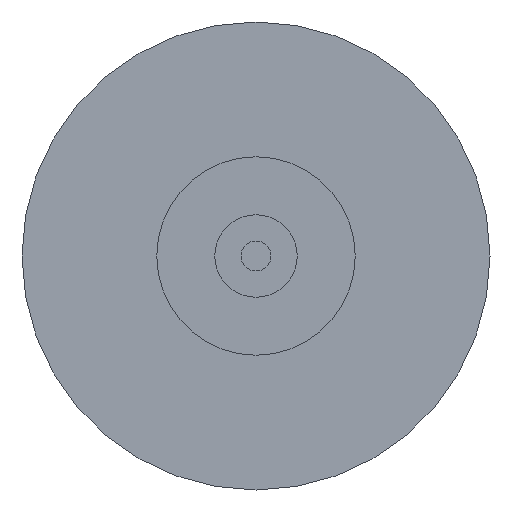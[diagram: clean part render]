
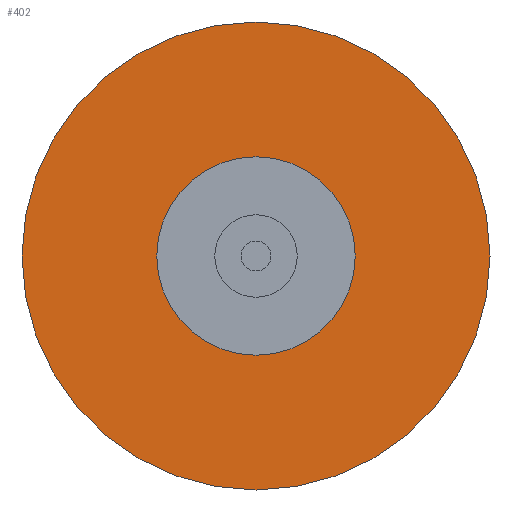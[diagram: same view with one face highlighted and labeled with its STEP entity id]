
A CAD part, left-side view. The second image highlights one B-rep face of the part: STEP entity #402.
In plain terms, the highlighted planar face has unit normal (-1, 0, 0).
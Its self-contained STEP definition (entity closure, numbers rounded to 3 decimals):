
#85=CARTESIAN_POINT('',(-18.5,0.,0.));
#86=DIRECTION('',(-1.,0.,0.));
#87=DIRECTION('',(0.,0.,-1.));
#88=AXIS2_PLACEMENT_3D('',#85,#86,#87);
#90=CARTESIAN_POINT('',(-18.5,0.,0.));
#91=DIRECTION('',(1.,0.,0.));
#92=DIRECTION('',(0.,0.,-1.));
#93=AXIS2_PLACEMENT_3D('',#90,#91,#92);
#95=CARTESIAN_POINT('',(-18.5,0.,0.));
#96=DIRECTION('',(1.,0.,0.));
#97=DIRECTION('',(0.,0.,-1.));
#98=AXIS2_PLACEMENT_3D('',#95,#96,#97);
#108=CARTESIAN_POINT('',(-18.5,0.,0.));
#109=DIRECTION('',(-1.,0.,0.));
#110=DIRECTION('',(0.,0.,-1.));
#111=AXIS2_PLACEMENT_3D('',#108,#109,#110);
#206=CARTESIAN_POINT('',(-18.5,0.,-62.5));
#208=VERTEX_POINT('',#206);
#209=CARTESIAN_POINT('',(-18.5,0.,-26.5));
#211=VERTEX_POINT('',#209);
#226=CARTESIAN_POINT('',(-18.5,0.,62.5));
#228=VERTEX_POINT('',#226);
#229=CARTESIAN_POINT('',(-18.5,0.,26.5));
#231=VERTEX_POINT('',#229);
#387=CARTESIAN_POINT('',(-18.5,0.,0.));
#388=DIRECTION('',(1.,0.,0.));
#389=DIRECTION('',(0.,0.,1.));
#390=AXIS2_PLACEMENT_3D('',#387,#388,#389);
#391=PLANE('',#390);
#392=ORIENTED_EDGE('',*,*,#380,.F.);
#393=ORIENTED_EDGE('',*,*,#369,.T.);
#394=EDGE_LOOP('',(#392,#393));
#395=FACE_OUTER_BOUND('',#394,.F.);
#397=ORIENTED_EDGE('',*,*,#396,.F.);
#399=ORIENTED_EDGE('',*,*,#398,.T.);
#400=EDGE_LOOP('',(#397,#399));
#401=FACE_BOUND('',#400,.F.);
#402=ADVANCED_FACE('',(#395,#401),#391,.F.);
#89=CIRCLE('',#88,62.5);
#94=CIRCLE('',#93,62.5);
#99=CIRCLE('',#98,26.5);
#112=CIRCLE('',#111,26.5);
#369=EDGE_CURVE('',#208,#228,#94,.T.);
#380=EDGE_CURVE('',#208,#228,#89,.T.);
#396=EDGE_CURVE('',#211,#231,#99,.T.);
#398=EDGE_CURVE('',#211,#231,#112,.T.);
